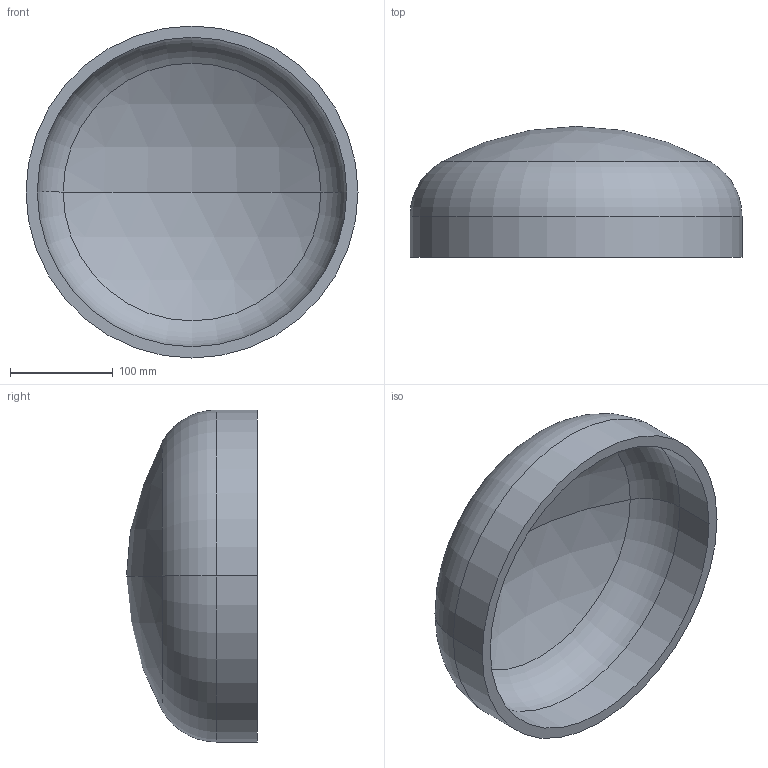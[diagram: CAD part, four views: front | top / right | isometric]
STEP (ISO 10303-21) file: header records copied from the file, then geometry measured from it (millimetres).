
FILE_DESCRIPTION (( 'STEP AP203' ), '1' );
FILE_NAME ('DIN 28013 Korbbogenform_-_Boden DIN 28013 - 323,9 x 40 - I - s=11.step', '2016-07-01T07:44:18', ( '' ), ( '' ), 'SwSTEP 2.0', 'SolidWorks 2013', '' );
FILE_SCHEMA (( 'CONFIG_CONTROL_DESIGN' ));
Length unit declared in the file: millimetre
Products named in the file (1): DIN 28013 Korbbogenform_-_Boden DIN 28013 - 323,9 x 40 - I - s=11
Bounding box: 323.9 x 127.73 x 323.9 mm (x, y, z)
Volume: 1635834.2 mm3; surface area: 308490.8 mm2
Topology: 1 solids, 1 shells, 13 faces, 24 edges, 14 vertices
Faces by surface type: torus 4, cylinder 4, sphere 4, plane 1
Entity records: 407 total; most frequent: DIRECTION 72, CARTESIAN_POINT 52, ORIENTED_EDGE 48, AXIS2_PLACEMENT_3D 34, EDGE_CURVE 24, CIRCLE 20, EDGE_LOOP 14, VERTEX_POINT 14
